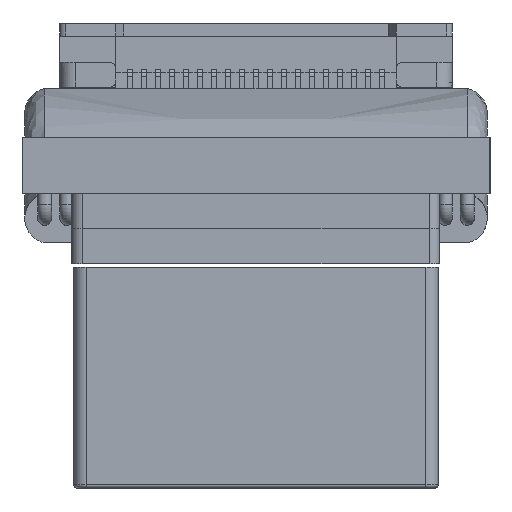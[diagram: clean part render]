
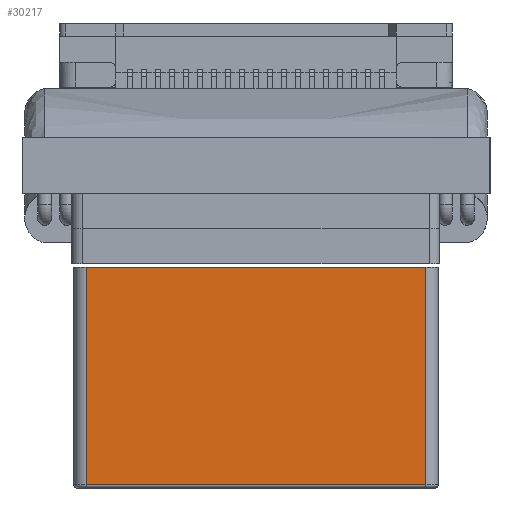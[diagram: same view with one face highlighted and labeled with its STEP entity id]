
A CAD part, front view. The second image highlights one B-rep face of the part: STEP entity #30217.
In plain terms, the highlighted planar face has unit normal (0, -1, 0).
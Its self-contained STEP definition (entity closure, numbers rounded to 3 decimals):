
#29148 = VERTEX_POINT('',#29149);
#29149 = CARTESIAN_POINT('',(-4.85,-5.4,6.3));
#29156 = EDGE_CURVE('',#29157,#29148,#29159,.T.);
#29157 = VERTEX_POINT('',#29158);
#29158 = CARTESIAN_POINT('',(4.85,-5.4,6.3));
#29159 = LINE('',#29160,#29161);
#29160 = CARTESIAN_POINT('',(5.2,-5.4,6.3));
#29161 = VECTOR('',#29162,1.);
#29162 = DIRECTION('',(-1.,0.,0.));
#30217 = ADVANCED_FACE('',(#30218),#30243,.F.);
#30218 = FACE_BOUND('',#30219,.T.);
#30219 = EDGE_LOOP('',(#30220,#30228,#30236,#30242));
#30220 = ORIENTED_EDGE('',*,*,#30221,.T.);
#30221 = EDGE_CURVE('',#29148,#30222,#30224,.T.);
#30222 = VERTEX_POINT('',#30223);
#30223 = CARTESIAN_POINT('',(-4.85,-5.4,0.1));
#30224 = LINE('',#30225,#30226);
#30225 = CARTESIAN_POINT('',(-4.85,-5.4,0.));
#30226 = VECTOR('',#30227,1.);
#30227 = DIRECTION('',(0.,0.,-1.));
#30228 = ORIENTED_EDGE('',*,*,#30229,.T.);
#30229 = EDGE_CURVE('',#30222,#30230,#30232,.T.);
#30230 = VERTEX_POINT('',#30231);
#30231 = CARTESIAN_POINT('',(4.85,-5.4,0.1));
#30232 = LINE('',#30233,#30234);
#30233 = CARTESIAN_POINT('',(4.85,-5.4,0.1));
#30234 = VECTOR('',#30235,1.);
#30235 = DIRECTION('',(1.,0.,0.));
#30236 = ORIENTED_EDGE('',*,*,#30237,.T.);
#30237 = EDGE_CURVE('',#30230,#29157,#30238,.T.);
#30238 = LINE('',#30239,#30240);
#30239 = CARTESIAN_POINT('',(4.85,-5.4,0.));
#30240 = VECTOR('',#30241,1.);
#30241 = DIRECTION('',(0.,0.,1.));
#30242 = ORIENTED_EDGE('',*,*,#29156,.T.);
#30243 = PLANE('',#30244);
#30244 = AXIS2_PLACEMENT_3D('',#30245,#30246,#30247);
#30245 = CARTESIAN_POINT('',(5.2,-5.4,0.));
#30246 = DIRECTION('',(0.,1.,0.));
#30247 = DIRECTION('',(0.,0.,1.));
